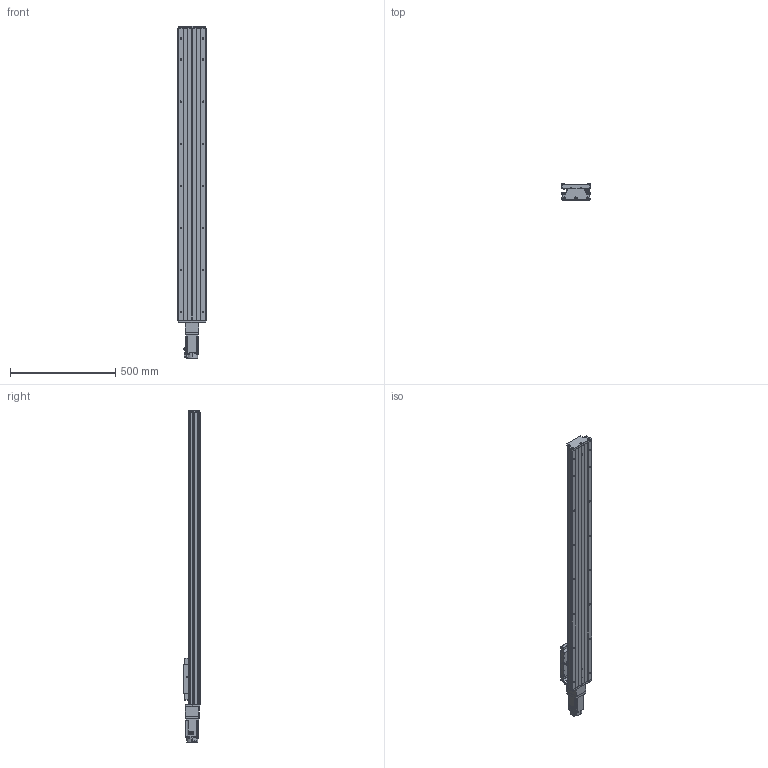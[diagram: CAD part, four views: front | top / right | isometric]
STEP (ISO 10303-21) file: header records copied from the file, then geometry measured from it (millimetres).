
FILE_DESCRIPTION (( 'STEP AP203' ), '1' );
FILE_NAME ('GTH14-1150-BC-M40-C4.step', '2023-06-30T08:32:23', ( '微软用户' ), ( '微软中国' ), 'SwSTEP 2.0', 'SolidWorks 2020', '' );
FILE_SCHEMA (( 'CONFIG_CONTROL_DESIGN' ));
Length unit declared in the file: millimetre
Products named in the file (20): GBT 70.1-M3℅5; HG-KN43J-S100; GB1155-6X6; GBT77-2000 M3×3; GBT 70.3-M3℅8; GBT70.1 M5℅16; GTH14-031; GTH14-1150-BC-M40-C4; GBT 70.2-M3¡Á5_M3¡Á6; す晦芛蹟隊 M3℅5; GTH14-001_1150; CTHA60-017; CTHA86-006-1_M40; GTH14-002_GTH14-002; EE_SX911P_R; CTHA86-013; GTH14-004; CTHA60-016; CTHA86-027-1; GTH14-005
Assembly tree (57 placements, depth 2):
  GTH14-1150-BC-M40-C4
    GTH14-001_1150
    GTH14-002_GTH14-002
    GTH14-004
    GTH14-005
    GB1155-6X6  x2
    GBT70.1 M5℅16  x10
    GBT 70.2-M3¡Á5_M3¡Á6  x8
    CTHA60-017  x3
    EE_SX911P_R  x3
    CTHA60-016  x2
    GBT 70.1-M3℅5  x6
    GBT77-2000 M3×3  x6
    GTH14-031
    す晦芛蹟隊 M3℅5  x6
    CTHA86-006-1_M40
    CTHA86-013
    CTHA86-027-1
    HG-KN43J-S100
    GBT 70.3-M3℅8  x2
Bounding box: 135 x 78 x 1578.7 mm (x, y, z)
Volume: 7768843.9 mm3; surface area: 1184322.1 mm2
Topology: 60 solids, 60 shells, 2444 faces, 5829 edges, 3602 vertices
Faces by surface type: plane 1308, cylinder 672, cone 304, torus 120, sphere 20, bspline 20
Entity records: 45344 total; most frequent: CARTESIAN_POINT 10047, DIRECTION 6696, ORIENTED_EDGE 6542, EDGE_CURVE 3271, AXIS2_PLACEMENT_3D 2295, VECTOR 2106, LINE 2106, VERTEX_POINT 2070
